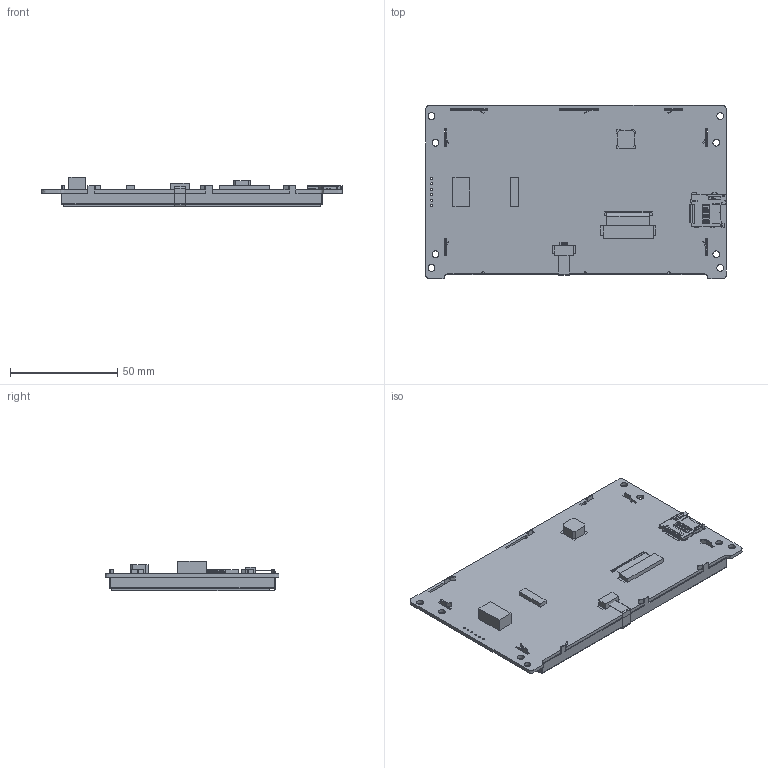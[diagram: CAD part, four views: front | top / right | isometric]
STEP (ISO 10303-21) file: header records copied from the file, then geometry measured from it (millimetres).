
FILE_DESCRIPTION(/* description */ (''),/* implementation_level */ '2;1');
FILE_NAME(/* name */ '',/* time_stamp */ '2023-11-30T18:07:31+08:00',/* author */ (''),/* organization */ (''),/* preprocessor_version */ 'ST-DEVELOPER v11',/* originating_system */ 'SIEMENS PLM Software NX 7.5',/* authorisation */ '');
FILE_SCHEMA (('AP203_CONFIGURATION_CONTROLLED_3D_DESIGN_OF_MECHANICAL_PARTS_AND_ASSEMBLIES_MIM_LF'));
Length unit declared in the file: millimetre
Products named in the file (1): VTc050T34T
Bounding box: 140 x 80.9 x 13.9 mm (x, y, z)
Volume: 32360.5 mm3; surface area: 53958.3 mm2
Topology: 17 solids, 17 shells, 1253 faces, 3553 edges, 2310 vertices
Faces by surface type: plane 961, cylinder 290, cone 1, extrusion 1
Full cylindrical faces by diameter (mm): 0.889 x6, 3.2 x8
Entity records: 41435 total; most frequent: CARTESIAN_POINT 7252, ORIENTED_EDGE 7076, DIRECTION 6625, EDGE_CURVE 3538, VECTOR 2947, LINE 2946, VERTEX_POINT 2310, AXIS2_PLACEMENT_3D 1839
